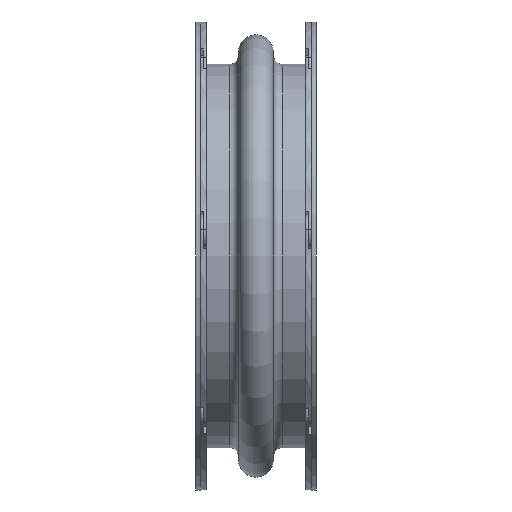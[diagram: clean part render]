
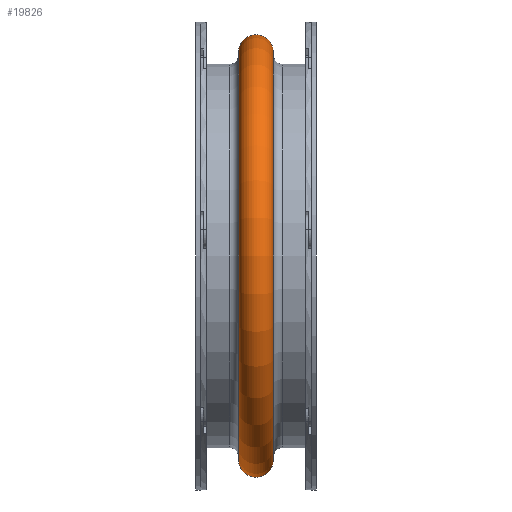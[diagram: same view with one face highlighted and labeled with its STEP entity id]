
A CAD part, front view. The second image highlights one B-rep face of the part: STEP entity #19826.
In plain terms, the highlighted toroidal (fillet/blend) face has major radius 428.625 mm and minor radius 36.513 mm.
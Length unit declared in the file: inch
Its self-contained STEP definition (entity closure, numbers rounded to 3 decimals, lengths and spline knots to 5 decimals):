
#266=FACE_BOUND('',#3143,.T.);
#1252=TOROIDAL_SURFACE('',#21737,16.875,1.4375);
#1830=FACE_OUTER_BOUND('',#3142,.T.);
#3142=EDGE_LOOP('',(#15152));
#3143=EDGE_LOOP('',(#15153));
#6910=CIRCLE('',#21736,16.92263);
#6911=CIRCLE('',#21738,16.92263);
#8661=VERTEX_POINT('',#32934);
#8662=VERTEX_POINT('',#32937);
#11000=EDGE_CURVE('',#8661,#8661,#6910,.T.);
#11001=EDGE_CURVE('',#8662,#8662,#6911,.T.);
#15152=ORIENTED_EDGE('',*,*,#11001,.F.);
#15153=ORIENTED_EDGE('',*,*,#11000,.T.);
#19826=ADVANCED_FACE('',(#1830,#266),#1252,.T.);
#21736=AXIS2_PLACEMENT_3D('',#32935,#26348,#26349);
#21737=AXIS2_PLACEMENT_3D('',#32936,#26350,#26351);
#21738=AXIS2_PLACEMENT_3D('',#32938,#26352,#26353);
#26348=DIRECTION('center_axis',(1.,0.,0.));
#26349=DIRECTION('ref_axis',(0.,0.,-1.));
#26350=DIRECTION('center_axis',(1.,0.,0.));
#26351=DIRECTION('ref_axis',(0.,0.,-1.));
#26352=DIRECTION('center_axis',(1.,0.,0.));
#26353=DIRECTION('ref_axis',(0.,0.,-1.));
#32934=CARTESIAN_POINT('',(-1.43671,16.92263,0.));
#32935=CARTESIAN_POINT('Origin',(-1.43671,0.,
0.));
#32936=CARTESIAN_POINT('Origin',(0.,0.,
0.));
#32937=CARTESIAN_POINT('',(1.43671,16.92263,0.));
#32938=CARTESIAN_POINT('Origin',(1.43671,0.,0.));
